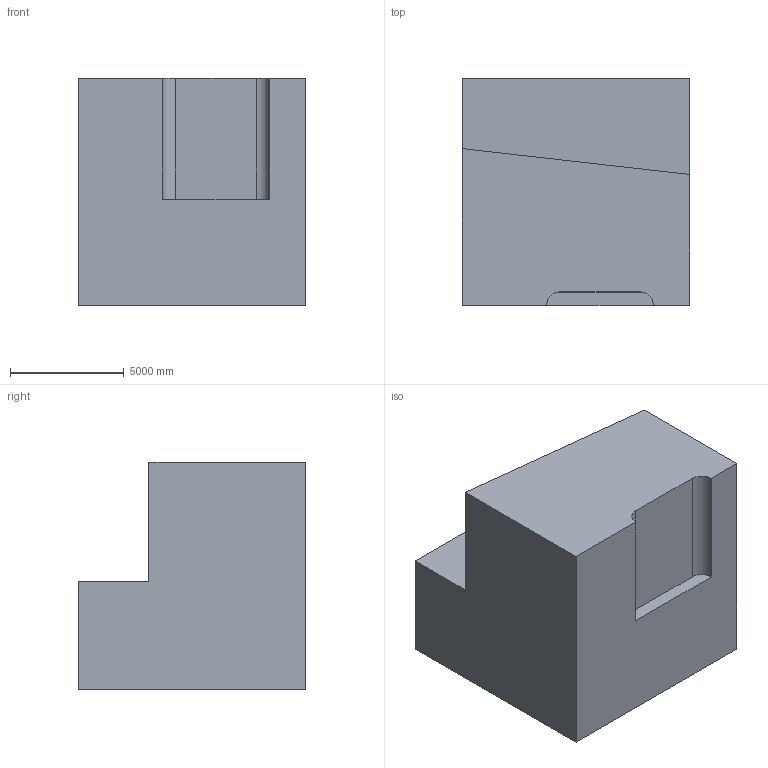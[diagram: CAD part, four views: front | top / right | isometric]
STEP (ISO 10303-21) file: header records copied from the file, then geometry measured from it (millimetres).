
FILE_DESCRIPTION (( 'STEP AP203' ), '1' );
FILE_NAME ('1142.STEP', '2022-08-18T12:55:38', ( 'user' ), ( '' ), 'SwSTEP 2.0', 'SolidWorks 2021', '' );
FILE_SCHEMA (( 'CONFIG_CONTROL_DESIGN' ));
Length unit declared in the file: centimetre
Products named in the file (1): 1142
Bounding box: 10000 x 10000 x 10000 mm (x, y, z)
Volume: 793158828159 mm3; surface area: 565364809.7 mm2
Topology: 1 solids, 1 shells, 12 faces, 30 edges, 20 vertices
Faces by surface type: plane 10, cylinder 2
Entity records: 435 total; most frequent: CARTESIAN_POINT 63, DIRECTION 60, ORIENTED_EDGE 60, EDGE_CURVE 30, VECTOR 26, LINE 26, VERTEX_POINT 20, AXIS2_PLACEMENT_3D 17
